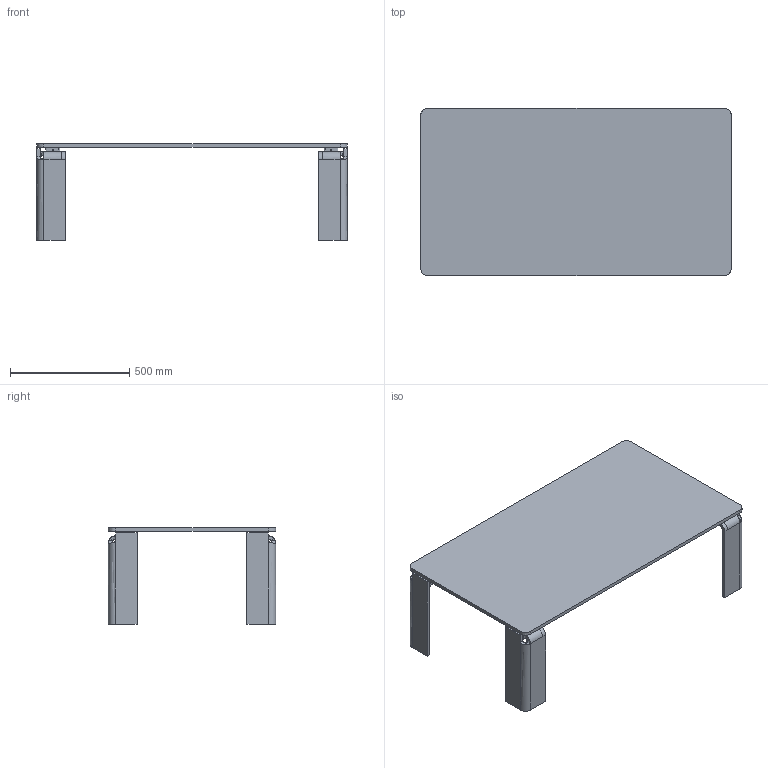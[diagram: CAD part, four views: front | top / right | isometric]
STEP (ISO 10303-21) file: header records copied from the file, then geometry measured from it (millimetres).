
FILE_DESCRIPTION(/* description */ (''),/* implementation_level */ '2;1');
FILE_NAME(/* name */ '104 - Newton 130x70 H40',/* time_stamp */ '2012-06-20T14:48:01+02:00',/* author */ (''),/* organization */ (''),/* preprocessor_version */ 'ST-DEVELOPER v10',/* originating_system */ '',/* authorisation */ '');
FILE_SCHEMA (('CONFIG_CONTROL_DESIGN'));
Length unit declared in the file: millimetre
Products named in the file (1): 1
Bounding box: 1300 x 700 x 404 mm (x, y, z)
Volume: 19318537.6 mm3; surface area: 2782988.3 mm2
Topology: 17 solids, 17 shells, 230 faces, 532 edges, 328 vertices
Faces by surface type: bspline 128, plane 102
Entity records: 8608 total; most frequent: CARTESIAN_POINT 5128, ORIENTED_EDGE 1048, EDGE_CURVE 524, B_SPLINE_CURVE_WITH_KNOTS 372, VERTEX_POINT 328, EDGE_LOOP 254, ADVANCED_FACE 230, FACE_OUTER_BOUND 230
